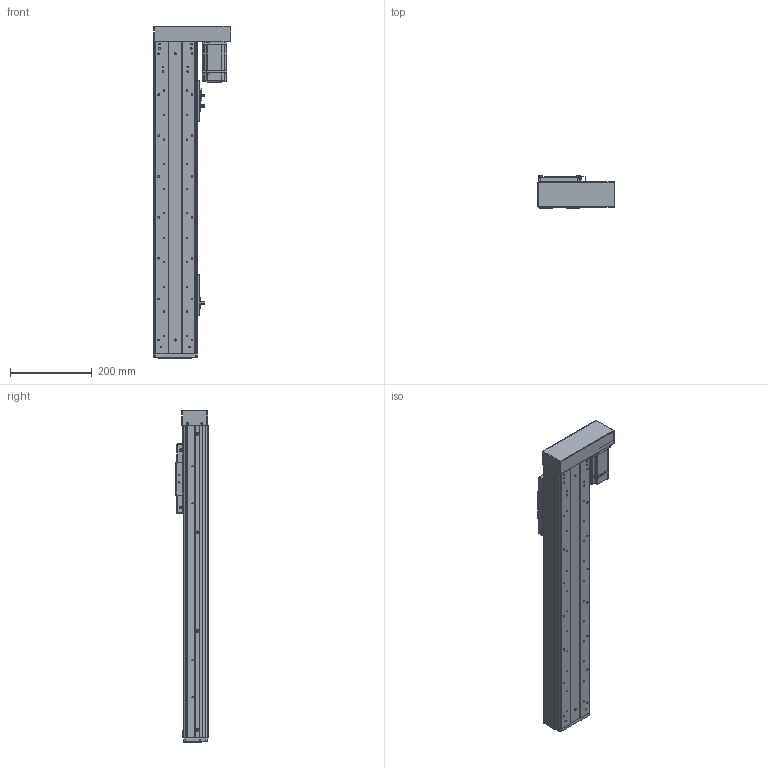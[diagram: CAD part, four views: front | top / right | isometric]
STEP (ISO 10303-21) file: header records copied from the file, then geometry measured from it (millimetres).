
FILE_DESCRIPTION (( 'STEP AP203' ), '1' );
FILE_NAME ('RY100FS-L1620-300-RK(15双轨).SLDASM_500.step', '2021-03-02T07:46:09', ( '盈信电脑' ), ( '东莞市道滘镇水果街19号' ), 'SwSTEP 2.0', 'SolidWorks 2012', '' );
FILE_SCHEMA (( 'CONFIG_CONTROL_DESIGN' ));
Products named in the file (21): RY100FS-L1620-300-RK(15邧寢).SLDASM_500; 蚥薯蝶紫輸; 1; RY100FS-15邧寢蛌殏萇儂啣; RY100FS-15邧寢蛌殏萇儂欶; 滅袉蝶14-35; RY100F-詩湍揤踡輸; 覜茼ん672; RY100FS-双轨螺母座(16丝杆）; RY100FS-15邧寢蛌殏萇儂釱; RY100F-綴裔啣; RY80俋离覜茼え; 672嫖萇羲壽假蚾釱; 棠沺沭; RY100F-滅鳥裔啣; RY100F-詩湍揤踡謫; RY100F-詩湍幗謫粣; RY100FS-300-RK15絳寢倰第菁釱_500; RY100FS-300-RK15邧寢祥凄詩湍_500; RY100FS-双轨铝滑块(上板）; RY100FS-300-RK15絳寢倰第奻裔啣_500
Assembly tree (29 placements, depth 2):
  RY100FS-L1620-300-RK(15邧寢).SLDASM_500
    RY100FS-300-RK15絳寢倰第菁釱_500
    RY100FS-300-RK15絳寢倰第奻裔啣_500  x2
    RY100FS-300-RK15邧寢祥凄詩湍_500
    RY100FS-双轨铝滑块(上板）
    RY100F-滅鳥裔啣
    棠沺沭  x2
    RY100F-詩湍幗謫粣
    RY100F-詩湍揤踡謫  x2
    RY100F-綴裔啣
    672嫖萇羲壽假蚾釱  x2
    RY80俋离覜茼え  x2
    覜茼ん672  x3
    RY100F-詩湍揤踡輸  x2
    RY100FS-双轨螺母座(16丝杆）
    RY100FS-15邧寢蛌殏萇儂釱
    滅袉蝶14-35
    1
    RY100FS-15邧寢蛌殏萇儂啣
    RY100FS-15邧寢蛌殏萇儂欶
    蚥薯蝶紫輸  x2
Bounding box: 189.5 x 78.5 x 812 mm (x, y, z)
Volume: 2148818.4 mm3; surface area: 902067.2 mm2
Topology: 29 solids, 29 shells, 2219 faces, 6004 edges, 3874 vertices
Faces by surface type: plane 1024, cylinder 994, cone 168, bspline 33
Entity records: 63172 total; most frequent: CARTESIAN_POINT 13130, DIRECTION 9997, ORIENTED_EDGE 9816, EDGE_CURVE 4908, AXIS2_PLACEMENT_3D 3536, VERTEX_POINT 3222, LINE 2925, VECTOR 2925
